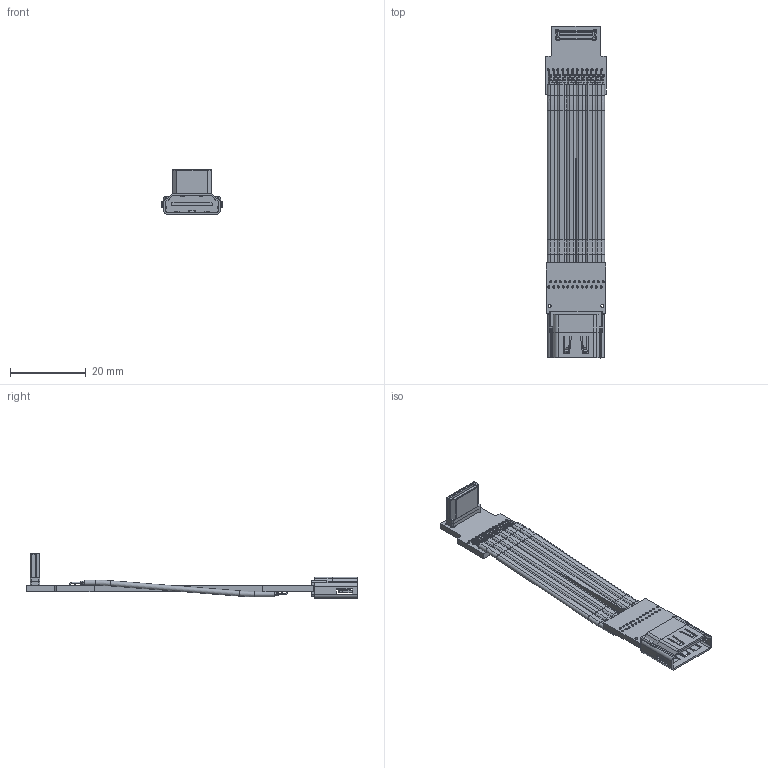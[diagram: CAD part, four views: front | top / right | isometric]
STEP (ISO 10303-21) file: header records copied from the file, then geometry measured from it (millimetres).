
FILE_DESCRIPTION(('Open CASCADE Model'),'2;1');
FILE_NAME('Open CASCADE Shape Model','2022-06-08T20:48:22',('Author'),( 'Open CASCADE'),'Open CASCADE STEP processor 6.8','Open CASCADE 6.8' ,'Unknown');
FILE_SCHEMA(('AUTOMOTIVE_DESIGN { 1 0 10303 214 1 1 1 1 }'));
Length unit declared in the file: millimetre
Products named in the file (130): PCB; Board; Open CASCADE STEP translator 6.8 5.1.1; Designator3; HDMI_female; HDMI-P; Open CASCADE STEP translator 6.8 5.3; HDMI_type_C1; miniHDMI-p_RGB10275833; Free-Models; s_shape_Cable20210812(2)
Assembly tree (151 placements, depth 3):
  PCB
    Board
      Open CASCADE STEP translator 6.8 5.1.1
    Designator3
      HDMI_female  x2
      HDMI_female
      HDMI_female  x2
      HDMI_female
      HDMI_female  x2
      HDMI_female
      HDMI_female  x2
      HDMI_female
      HDMI_female  x2
      HDMI_female
      HDMI_female  x2
      HDMI_female
      HDMI_female  x2
      HDMI_female
      HDMI_female  x2
      HDMI_female
      HDMI_female  x2
      HDMI_female
      HDMI_female  x2
      HDMI_female
      HDMI_female  x2
      HDMI_female
      HDMI_female  x2
      HDMI_female
      HDMI_female  x2
      HDMI_female
      HDMI_female  x2
      HDMI_female
      HDMI_female  x2
      HDMI_female
      HDMI_female  x2
      HDMI_female
      HDMI_female  x2
      HDMI_female
      HDMI_female  x2
      HDMI_female
      HDMI_female  x2
      HDMI_female
      HDMI_female  x2
      HDMI_female
      HDMI_female  x2
      HDMI_female
      HDMI-P
    Open CASCADE STEP translator 6.8 5.3
      HDMI_type_C1
      miniHDMI-p_RGB10275833  x2
    Free-Models
      s_shape_Cable20210812(2)
      s_shape_Cable20210812(2)
      s_shape_Cable20210812(2)
      s_shape_Cable20210812(2)
      s_shape_Cable20210812(2)
      s_shape_Cable20210812(2)
      s_shape_Cable20210812(2)
      s_shape_Cable20210812(2)
      s_shape_Cable20210812(2)
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Bounding box: 16.1 x 87.78 x 11.78 mm (x, y, z)
Volume: 3455 mm3; surface area: 15389.8 mm2
Topology: 147 solids, 147 shells, 2675 faces, 6462 edges, 4097 vertices
Faces by surface type: plane 1274, cylinder 1039, torus 362
Full cylindrical faces by diameter (mm): 0.4 x10, 0.55 x24, 0.58 x24, 0.8 x2, 1.1 x2, 1.4 x2
Entity records: 91338 total; most frequent: DIRECTION 12952, CARTESIAN_POINT 11787, ORIENTED_EDGE 11126, EDGE_CURVE 5563, AXIS2_PLACEMENT_3D 4966, VERTEX_POINT 3503, LINE 3020, VECTOR 3020
